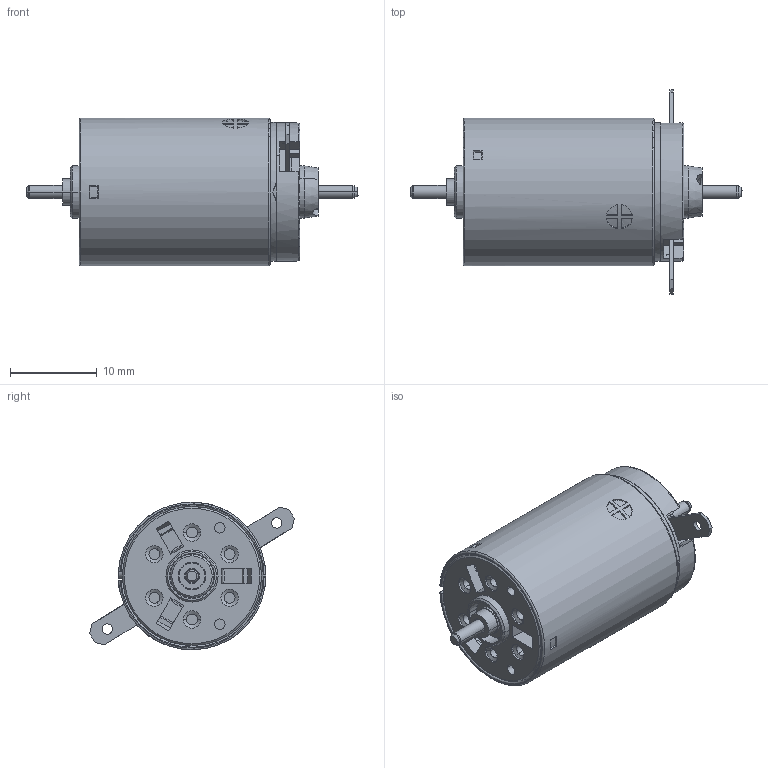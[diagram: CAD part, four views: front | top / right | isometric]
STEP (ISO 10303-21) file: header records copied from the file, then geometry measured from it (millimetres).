
FILE_DESCRIPTION((''),'2;1');
FILE_NAME('215988_RE-MAX17','2016-10-21T',('mmagpetk'),(''),'CREO PARAMETRIC BY PTC INC, 2016050','CREO PARAMETRIC BY PTC INC, 2016050','');
FILE_SCHEMA(('CONFIG_CONTROL_DESIGN'));
Length unit declared in the file: millimetre
Products named in the file (1): 215988_RE-MAX17
Bounding box: 38.2 x 23.53 x 16.99 mm (x, y, z)
Volume: 3333.2 mm3; surface area: 4417.8 mm2
Topology: 1 solids, 1 shells, 410 faces, 1090 edges, 702 vertices
Faces by surface type: plane 180, cylinder 143, cone 58, bspline 19, torus 10
Entity records: 19373 total; most frequent: CARTESIAN_POINT 3332, ORIENTED_EDGE 2180, DIRECTION 2149, PRESENTATION_STYLE_ASSIGNMENT 1284, STYLED_ITEM 1091, CURVE_STYLE 1090, EDGE_CURVE 1090, AXIS2_PLACEMENT_3D 786
